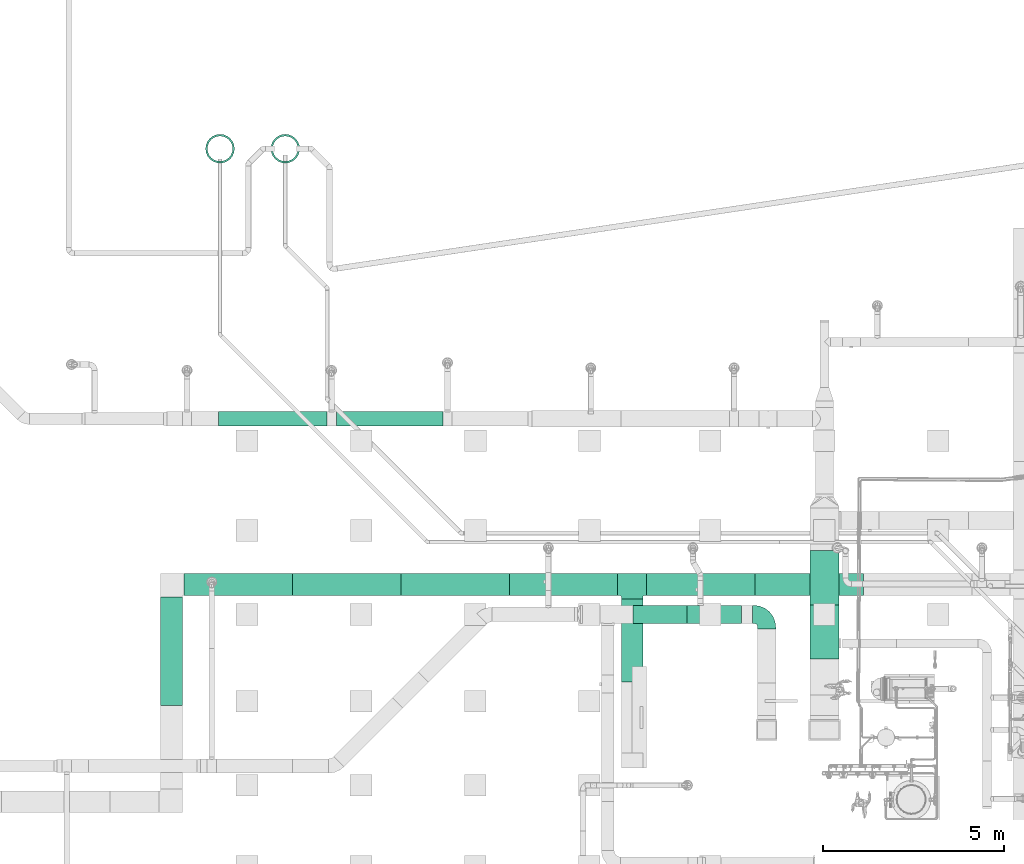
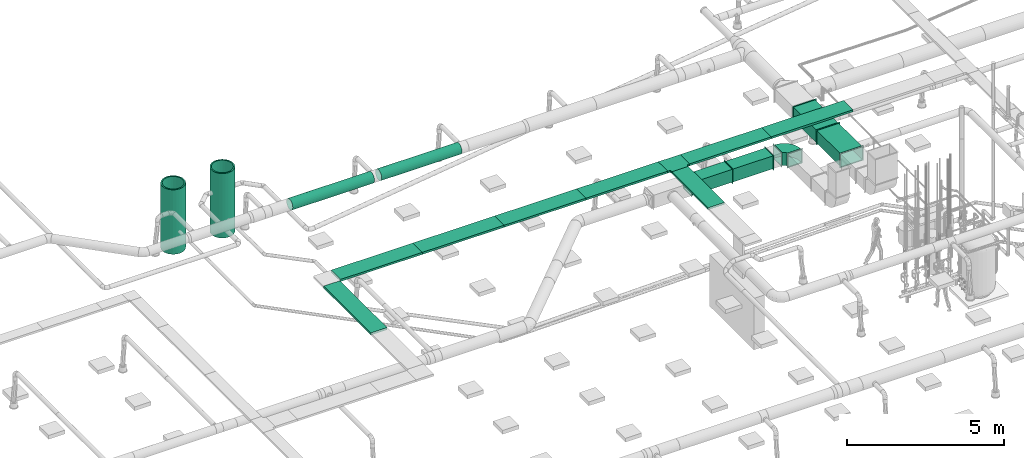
# One storey, part 13 of 374: 9 distribution elements, 6 flow segments, 3 flow fittings.
"""IFC2X3 building model written with IfcOpenShell, lengths in metres."""

from ifc_helpers import new_model, si_unit, direction, frame, frame_2d, origin, place, context, subcontext, project, spatial, rectangle, extrude, open_shell, surface_model, source, transform, mapped, element, save


model = new_model("IFC2X3")

# Units and contexts
model_context = context("Model", 3, precision=1e-05, world=origin(), true_north=direction((-0.4480736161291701, 0.8939966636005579)))
body_context = subcontext(model_context, "Body", "Model", "MODEL_VIEW")
ifc_project = project(units=[si_unit("LENGTHUNIT", "METRE"), si_unit("AREAUNIT", "SQUARE_METRE"), si_unit("VOLUMEUNIT", "CUBIC_METRE"), si_unit("PLANEANGLEUNIT", "RADIAN"), si_unit("THERMODYNAMICTEMPERATUREUNIT", "KELVIN"), si_unit("MASSUNIT", "GRAM", prefix="KILO"), si_unit("TIMEUNIT", "SECOND")], contexts=[model_context])

# Site, building, storey
site_placement = place(None, origin())
site = spatial("IfcSite", under=ifc_project, at=site_placement, Name="Site 1", CompositionType="ELEMENT")
building_placement = place(site_placement, origin())
building = spatial("IfcBuilding", under=site, at=building_placement, Name="Undefined", CompositionType="ELEMENT")
storey_placement = place(building_placement, origin())
storey = spatial("IfcBuildingStorey", under=building, at=storey_placement, Name="Rez de chauss\x8ee", CompositionType="ELEMENT", Elevation=0.0)

# Flow fitting
shared_shape_1 = source(origin(), body_context, "Body", "SurfaceModel", [
    surface_model("IfcFaceBasedSurfaceModel", [(0.0, 0.0, 0.0), (0.5800000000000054, 0.0, 0.0), (0.5400000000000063, 0.040000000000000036, 0.0), (0.04000000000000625, 0.040000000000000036, 0.0), (0.5800000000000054, 0.5800000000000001, 0.0), (0.5400000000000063, 0.54, 0.0), (0.0, 0.5800000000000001, 0.0), (0.04000000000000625, 0.54, 0.0), (0.6870000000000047, 0.0, -0.6870000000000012), (0.6870000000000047, 0.0, -0.10699999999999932), (0.6870000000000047, 0.040000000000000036, -0.14700000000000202), (0.6870000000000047, 0.040000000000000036, -0.647000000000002), (0.6870000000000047, 0.5800000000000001, -0.10699999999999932), (0.6870000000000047, 0.54, -0.14700000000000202), (0.6870000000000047, 0.5800000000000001, -0.6870000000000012), (0.6870000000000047, 0.54, -0.647000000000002), (0.04000000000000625, 0.54, -0.0470000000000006), (0.06044450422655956, 0.54, -0.20229142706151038), (0.06044450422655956, 0.040000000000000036, -0.20229142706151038), (0.04000000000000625, 0.040000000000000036, -0.0470000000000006), (0.12038475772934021, 0.54, -0.3470000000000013), (0.12038475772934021, 0.040000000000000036, -0.3470000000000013), (0.2157359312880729, 0.54, -0.4712640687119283), (0.2157359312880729, 0.040000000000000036, -0.4712640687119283), (0.3400000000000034, 0.54, -0.566615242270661), (0.3400000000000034, 0.040000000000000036, -0.566615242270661), (0.48470857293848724, 0.54, -0.6265554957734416), (0.48470857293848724, 0.040000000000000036, -0.6265554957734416), (0.6400000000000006, 0.54, -0.647000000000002), (0.6400000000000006, 0.040000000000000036, -0.647000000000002), (0.04000000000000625, 0.040000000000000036, 0.0030000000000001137), (0.04000000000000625, 0.54, 0.0030000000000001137), (0.5400000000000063, 0.040000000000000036, 0.0030000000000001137), (0.5400000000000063, 0.040000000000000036, -0.0470000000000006), (0.5400000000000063, 0.54, -0.0470000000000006), (0.5400000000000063, 0.54, 0.0030000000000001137), (0.6400000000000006, 0.54, -0.14700000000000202), (0.6141180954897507, 0.54, -0.14359258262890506), (0.6141180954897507, 0.040000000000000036, -0.14359258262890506), (0.6400000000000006, 0.040000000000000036, -0.14700000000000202), (0.5900000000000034, 0.54, -0.133602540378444), (0.5900000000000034, 0.040000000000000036, -0.133602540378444), (0.5692893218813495, 0.54, -0.11771067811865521), (0.5692893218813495, 0.040000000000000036, -0.11771067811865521), (0.5533974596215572, 0.54, -0.09700000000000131), (0.5533974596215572, 0.040000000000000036, -0.09700000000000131), (0.5434074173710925, 0.54, -0.072881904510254), (0.5434074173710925, 0.040000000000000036, -0.072881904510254), (0.6900000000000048, 0.040000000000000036, -0.14700000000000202), (0.6900000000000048, 0.54, -0.14700000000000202), (0.6900000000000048, 0.040000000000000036, -0.647000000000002), (0.6900000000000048, 0.54, -0.647000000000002)], [open_shell([[[0, 1, 2, 3]], [[1, 4, 5, 2]], [[6, 4, 5, 7]], [[0, 6, 7, 3]], [[8, 9, 10, 11]], [[9, 12, 13, 10]], [[14, 12, 13, 15]], [[8, 14, 15, 11]], [[16, 17, 18, 19]], [[17, 20, 21, 18]], [[20, 22, 23, 21]], [[22, 24, 25, 23]], [[24, 26, 27, 25]], [[26, 28, 29, 27]], [[19, 30, 31, 16]], [[32, 33, 34, 35]], [[36, 37, 38, 39]], [[37, 40, 41, 38]], [[40, 42, 43, 41]], [[42, 44, 45, 43]], [[44, 46, 47, 45]], [[46, 34, 33, 47]], [[39, 48, 49, 36]], [[50, 29, 28, 51]], [[17, 16, 46]], [[17, 46, 44]], [[17, 44, 42]], [[17, 42, 40]], [[17, 40, 37]], [[17, 37, 36]], [[17, 36, 51]], [[17, 51, 20]], [[34, 46, 16]], [[34, 16, 31]], [[34, 31, 35]], [[51, 28, 26]], [[51, 26, 24]], [[51, 24, 22]], [[51, 22, 20]], [[51, 36, 49]], [[47, 19, 18]], [[45, 47, 18]], [[43, 45, 18]], [[41, 43, 18]], [[38, 41, 18]], [[39, 38, 18]], [[50, 39, 18]], [[21, 50, 18]], [[19, 47, 33]], [[30, 19, 33]], [[32, 30, 33]], [[27, 29, 50]], [[25, 27, 50]], [[23, 25, 50]], [[21, 23, 50]], [[48, 39, 50]]])]),
])
flow_fitting_1_placement = place(storey_placement, origin())
element("IfcFlowFitting", 1, at=flow_fitting_1_placement, inside=storey, Name="Coude symétrique", ObjectType="Coude symétrique", context=body_context, shape_type="MappedRepresentation", body=[
    mapped(shared_shape_1, transform((49.93799663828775, 15.403573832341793, 3.5100000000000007), x_axis=(0.0, -1.0, 0.0), y_axis=(0.0, 0.0, 1.0), z_axis=(-1.0, 0.0, 0.0))),
])

# Flow segments
shared_shape_2 = source(origin(), body_context, "Body", "SurfaceModel", [
    surface_model("IfcFaceBasedSurfaceModel", [(0.0, 0.0, 0.0), (0.5800000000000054, 0.0, 0.0), (0.5400000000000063, 0.040000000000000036, 0.0), (0.04000000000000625, 0.040000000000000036, 0.0), (0.5800000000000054, 0.5800000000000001, 0.0), (0.5400000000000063, 0.54, 0.0), (0.0, 0.5800000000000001, 0.0), (0.04000000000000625, 0.54, 0.0), (0.0, 0.0, -1.4939999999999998), (0.5800000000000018, 0.0, -1.4939999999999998), (0.5399999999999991, 0.040000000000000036, -1.4939999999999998), (0.03999999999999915, 0.040000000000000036, -1.4939999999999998), (0.5800000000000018, 0.5800000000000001, -1.4939999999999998), (0.5399999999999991, 0.54, -1.4939999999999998), (0.0, 0.5800000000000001, -1.4939999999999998), (0.03999999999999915, 0.54, -1.4939999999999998), (0.04000000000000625, 0.54, 0.0030000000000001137), (0.03999999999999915, 0.54, -1.4969999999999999), (0.03999999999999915, 0.040000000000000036, -1.4969999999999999), (0.04000000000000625, 0.040000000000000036, 0.0030000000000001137), (0.5399999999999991, 0.040000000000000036, -1.4969999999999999), (0.5400000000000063, 0.040000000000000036, 0.0030000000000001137), (0.5399999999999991, 0.54, -1.4969999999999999), (0.5400000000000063, 0.54, 0.0030000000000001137)], [open_shell([[[0, 1, 2, 3]], [[1, 4, 5, 2]], [[6, 4, 5, 7]], [[0, 6, 7, 3]], [[8, 9, 10, 11]], [[9, 12, 13, 10]], [[14, 12, 13, 15]], [[8, 14, 15, 11]], [[16, 17, 18, 19]], [[19, 18, 20, 21]], [[21, 20, 22, 23]], [[23, 22, 17, 16]]])]),
])
flow_segment_1_placement = place(storey_placement, origin())
element("IfcFlowSegment", 2, at=flow_segment_1_placement, inside=storey, Name="Gaine de ventilation", ObjectType="Gaine de ventilation", context=body_context, shape_type="MappedRepresentation", body=[
    mapped(shared_shape_2, transform((49.62989142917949, 15.403573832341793, 4.090000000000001), x_axis=(0.0, -1.0, 0.0), y_axis=(0.0, 0.0, -1.0), z_axis=(1.0, 0.0, 0.0))),
])
flow_segment_2_placement = place(storey_placement, origin())
element("IfcFlowSegment", 3, at=flow_segment_2_placement, inside=storey, Name="Gaine de ventilation", ObjectType="Gaine de ventilation", context=body_context, shape_type="MappedRepresentation", body=[
    mapped(shared_shape_2, transform((48.12989142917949, 15.403573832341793, 4.090000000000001), x_axis=(0.0, -1.0, 0.0), y_axis=(0.0, 0.0, -1.0), z_axis=(1.0, 0.0, 0.0))),
])
shared_shape_3 = source(origin(), body_context, "Body", "SurfaceModel", [
    surface_model("IfcFaceBasedSurfaceModel", [(0.0, 0.05221047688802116, -8.8817842e-16), (0.0, 0.0, 0.0), (3.0, 0.0, 0.0), (3.0, 0.05221047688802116, -8.8817842e-16), (0.0, -0.05043144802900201, -0.013513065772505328), (3.0, -0.05043144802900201, -0.013513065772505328), (0.0, -0.09564704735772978, -0.0396183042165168), (3.0, -0.09564704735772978, -0.0396183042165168), (0.0, -0.1325654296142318, -0.07653668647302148), (3.0, -0.1325654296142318, -0.07653668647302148), (0.0, -0.15867066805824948, -0.12175228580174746), (3.0, -0.15867066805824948, -0.12175228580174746), (0.0, -0.17218373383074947, -0.17218373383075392), (3.0, -0.17218373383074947, -0.17218373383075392), (0.0, -0.17218373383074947, -0.22439421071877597), (3.0, -0.17218373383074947, -0.22439421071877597), (0.0, -0.15867066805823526, -0.2748256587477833), (3.0, -0.15867066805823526, -0.2748256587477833), (0.0, -0.1325654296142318, -0.3200412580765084), (3.0, -0.1325654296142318, -0.3200412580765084), (0.0, -0.09564704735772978, -0.35695964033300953), (3.0, -0.09564704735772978, -0.35695964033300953), (0.0, -0.050431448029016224, -0.3830648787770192), (3.0, -0.050431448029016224, -0.3830648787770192), (0.0, 0.0, -0.39657794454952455), (3.0, 0.0, -0.39657794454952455), (0.0, 0.05221047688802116, -0.3965779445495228), (3.0, 0.05221047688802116, -0.3965779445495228), (0.0, 0.10264192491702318, -0.38306487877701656), (3.0, 0.10264192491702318, -0.38306487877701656), (0.0, 0.14785752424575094, -0.356959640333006), (3.0, 0.14785752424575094, -0.356959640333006), (0.0, 0.18477590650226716, -0.32004125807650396), (3.0, 0.18477590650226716, -0.32004125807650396), (0.0, 0.21088114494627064, -0.2748256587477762), (3.0, 0.21088114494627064, -0.2748256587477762), (0.0, 0.22439421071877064, -0.22439421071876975), (3.0, 0.22439421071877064, -0.22439421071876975), (0.0, 0.22439421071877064, -0.1721837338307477), (3.0, 0.22439421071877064, -0.1721837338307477), (0.0, 0.21088114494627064, -0.12175228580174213), (3.0, 0.21088114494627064, -0.12175228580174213), (0.0, 0.18477590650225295, -0.07653668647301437), (3.0, 0.18477590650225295, -0.07653668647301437), (0.0, 0.14785752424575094, -0.03961830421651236), (3.0, 0.14785752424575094, -0.03961830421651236), (0.0, 0.10264192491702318, -0.013513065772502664), (3.0, 0.10264192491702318, -0.013513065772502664)], [open_shell([[[0, 1, 2, 3]], [[1, 4, 5, 2]], [[4, 6, 7, 5]], [[6, 8, 9, 7]], [[8, 10, 11, 9]], [[10, 12, 13, 11]], [[12, 14, 15, 13]], [[14, 16, 17, 15]], [[16, 18, 19, 17]], [[18, 20, 21, 19]], [[20, 22, 23, 21]], [[22, 24, 25, 23]], [[24, 26, 27, 25]], [[26, 28, 29, 27]], [[28, 30, 31, 29]], [[30, 32, 33, 31]], [[32, 34, 35, 33]], [[34, 36, 37, 35]], [[36, 38, 39, 37]], [[38, 40, 41, 39]], [[40, 42, 43, 41]], [[42, 44, 45, 43]], [[44, 46, 47, 45]], [[46, 0, 3, 47]]])]),
])
flow_segment_3_placement = place(storey_placement, origin())
element("IfcFlowSegment", 4, at=flow_segment_3_placement, inside=storey, Name="Tube", ObjectType="Tube", context=body_context, shape_type="MappedRepresentation", body=[
    mapped(shared_shape_3, transform((38.163289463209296, 20.57865198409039, 3.9931851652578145), x_axis=(-1.0, 0.0, 0.0), y_axis=(7.266545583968e-12, -0.9914448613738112, 0.13052619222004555), z_axis=(0.0, 0.13052619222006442, 0.9914448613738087))),
])

# Distribution element
shared_shape_4 = source(origin(), body_context, "Body", "SurfaceModel", [
    surface_model("IfcFaceBasedSurfaceModel", [(0.0, 0.049999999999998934, 0.0), (0.0, 0.0, 0.0), (0.08000000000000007, 0.0, 5.82867088e-16), (0.08000000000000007, 0.04999999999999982, 0.0), (0.08000000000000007, -0.04999999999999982, 0.04999999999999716), (0.08000000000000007, -0.04829629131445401, 0.03705904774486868), (0.0, -0.04829629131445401, 0.03705904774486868), (0.0, -0.04999999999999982, 0.04999999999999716), (0.08000000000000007, -0.0433012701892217, 0.02499999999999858), (0.0, -0.0433012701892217, 0.02499999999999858), (0.08000000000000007, -0.035355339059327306, 0.014644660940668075), (0.0, -0.035355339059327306, 0.014644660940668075), (0.08000000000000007, -0.025000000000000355, 0.006698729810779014), (0.0, -0.025000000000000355, 0.006698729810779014), (0.08000000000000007, -0.012940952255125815, 0.001703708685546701), (0.0, -0.012940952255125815, 0.001703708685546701), (0.0, -0.04999999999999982, 0.10000000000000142), (0.08000000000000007, -0.04999999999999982, 0.10000000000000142), (0.0, -0.6500000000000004, 0.10000000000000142), (0.0, -0.6500000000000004, 0.04999999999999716), (0.08000000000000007, -0.6500000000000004, 0.04999999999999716), (0.08000000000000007, -0.6500000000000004, 0.10000000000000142), (0.08000000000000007, -0.7000000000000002, 0.0), (0.08000000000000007, -0.6870590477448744, 0.001703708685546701), (0.0, -0.6870590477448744, 0.001703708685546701), (0.0, -0.7000000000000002, 0.0), (0.08000000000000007, -0.6749999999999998, 0.006698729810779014), (0.0, -0.6749999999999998, 0.006698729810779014), (0.08000000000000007, -0.664644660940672, 0.014644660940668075), (0.0, -0.664644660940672, 0.014644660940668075), (0.08000000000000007, -0.6566987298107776, 0.02499999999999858), (0.0, -0.6566987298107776, 0.02499999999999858), (0.08000000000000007, -0.6517037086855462, 0.03705904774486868), (0.0, -0.6517037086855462, 0.03705904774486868), (0.0, -0.75, 0.0), (0.08000000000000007, -0.75, 0.0), (0.0, -0.75, -0.6000000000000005), (0.0, 0.05000000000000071, -0.6000000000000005), (0.08000000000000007, 0.05000000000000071, -0.6000000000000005), (0.08000000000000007, -0.75, -0.6000000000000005)], [open_shell([[[0, 1, 2, 3]], [[4, 5, 6, 7]], [[5, 8, 9, 6]], [[8, 10, 11, 9]], [[10, 12, 13, 11]], [[12, 14, 15, 13]], [[14, 2, 1, 15]], [[7, 16, 17, 4]], [[18, 19, 20, 21]], [[22, 23, 24, 25]], [[23, 26, 27, 24]], [[26, 28, 29, 27]], [[28, 30, 31, 29]], [[30, 32, 33, 31]], [[32, 20, 19, 33]], [[25, 34, 35, 22]], [[36, 37, 38, 39]], [[39, 38, 2]], [[39, 2, 14]], [[39, 14, 12]], [[39, 12, 10]], [[39, 10, 8]], [[39, 8, 5]], [[39, 5, 4]], [[39, 4, 32]], [[39, 32, 30]], [[39, 30, 28]], [[39, 28, 26]], [[39, 26, 23]], [[39, 23, 22]], [[39, 22, 35]], [[4, 17, 21]], [[4, 21, 20]], [[4, 20, 32]], [[2, 38, 3]], [[1, 37, 36]], [[15, 1, 36]], [[13, 15, 36]], [[11, 13, 36]], [[9, 11, 36]], [[6, 9, 36]], [[7, 6, 36]], [[33, 7, 36]], [[31, 33, 36]], [[29, 31, 36]], [[27, 29, 36]], [[24, 27, 36]], [[25, 24, 36]], [[34, 25, 36]], [[18, 16, 7]], [[19, 18, 7]], [[33, 19, 7]], [[0, 37, 1]]])]),
])
distribution_element_1_placement = place(storey_placement, origin())
element("IfcDistributionElement", 5, at=distribution_element_1_placement, inside=storey, Name="Pièce en té", ObjectType="Pièce en té", context=body_context, shape_type="MappedRepresentation", body=[
    mapped(shared_shape_4, transform((46.961, 15.643637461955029, 4.18), x_axis=(0.0, 0.0, -1.0), y_axis=(1.0, 0.0, 0.0), z_axis=(0.0, -1.0, 0.0))),
])

# Flow segments
shared_shape_5 = source(origin(), body_context, "Body", "SurfaceModel", [
    surface_model("IfcFaceBasedSurfaceModel", [(0.0, 0.0, 0.0), (0.8800000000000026, 0.0, 0.0), (0.8400000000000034, 0.040000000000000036, -7.105427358e-15), (0.04000000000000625, 0.040000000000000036, 0.0), (0.8800000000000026, 0.5800000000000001, -2.842170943e-14), (0.8400000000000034, 0.54, -2.842170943e-14), (0.0, 0.5800000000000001, 0.0), (0.04000000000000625, 0.54, 0.0), (0.0, 0.0, -1.4939999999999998), (0.8799999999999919, -6.039613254e-14, -1.4939999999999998), (0.8399999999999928, 0.03999999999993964, -1.4940000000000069), (0.03999999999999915, 0.040000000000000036, -1.4939999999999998), (0.8799999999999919, 0.5799999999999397, -1.494000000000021), (0.8399999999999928, 0.5399999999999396, -1.4940000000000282), (0.0, 0.5800000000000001, -1.4939999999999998), (0.03999999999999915, 0.54, -1.4939999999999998), (0.04000000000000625, 0.54, 0.0030000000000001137), (0.03999999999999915, 0.54, -1.4969999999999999), (0.03999999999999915, 0.040000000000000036, -1.4969999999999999), (0.04000000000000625, 0.040000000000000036, 0.0030000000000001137), (0.8399999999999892, 0.03999999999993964, -1.497000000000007), (0.8400000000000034, 0.040000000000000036, 0.0029999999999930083), (0.8399999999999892, 0.5399999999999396, -1.4970000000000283), (0.8400000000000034, 0.54, 0.002999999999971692)], [open_shell([[[0, 1, 2, 3]], [[1, 4, 5, 2]], [[6, 4, 5, 7]], [[0, 6, 7, 3]], [[8, 9, 10, 11]], [[9, 12, 13, 10]], [[14, 12, 13, 15]], [[8, 14, 15, 11]], [[16, 17, 18, 19]], [[19, 18, 20, 21]], [[21, 20, 22, 23]], [[23, 22, 17, 16]]])]),
])
flow_segment_4_placement = place(storey_placement, origin())
element("IfcFlowSegment", 6, at=flow_segment_4_placement, inside=storey, Name="Gaine de ventilation", ObjectType="Gaine de ventilation", context=body_context, shape_type="MappedRepresentation", body=[
    mapped(shared_shape_5, transform((52.37499507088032, 13.882596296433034, 4.090000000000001), x_axis=(-1.0, 0.0, 0.0), y_axis=(0.0, 0.0, -1.0), z_axis=(0.0, -1.0, 0.0))),
])
flow_segment_5_placement = place(storey_placement, origin())
element("IfcFlowSegment", 7, at=flow_segment_5_placement, inside=storey, Name="Gaine de ventilation", ObjectType="Gaine de ventilation", context=body_context, shape_type="MappedRepresentation", body=[
    mapped(shared_shape_5, transform((52.374995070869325, 15.382596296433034, 4.090000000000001), x_axis=(-1.0, 0.0, 0.0), y_axis=(0.0, 0.0, -1.0), z_axis=(0.0, -1.0, 0.0))),
])
shared_shape_6 = source(origin(), body_context, "Body", "SurfaceModel", [
    surface_model("IfcFaceBasedSurfaceModel", [(0.0, 0.05221047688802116, -8.8817842e-16), (0.0, 0.0, 0.0), (2.9478949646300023, 0.0, 0.0), (2.9478949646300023, 0.05221047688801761, 0.0), (0.0, -0.05043144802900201, -0.013513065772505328), (2.9478949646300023, -0.050431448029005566, -0.01351306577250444), (0.0, -0.09564704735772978, -0.0396183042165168), (2.9478949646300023, -0.09564704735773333, -0.03961830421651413), (0.0, -0.1325654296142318, -0.07653668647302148), (2.9478949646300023, -0.1325654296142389, -0.07653668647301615), (0.0, -0.15867066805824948, -0.12175228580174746), (2.9478949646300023, -0.15867066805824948, -0.12175228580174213), (0.0, -0.17218373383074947, -0.17218373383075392), (2.9478949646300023, -0.17218373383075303, -0.17218373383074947), (0.0, -0.17218373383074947, -0.22439421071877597), (2.9478949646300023, -0.17218373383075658, -0.22439421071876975), (0.0, -0.15867066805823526, -0.2748256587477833), (2.9478949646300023, -0.15867066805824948, -0.274825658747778), (0.0, -0.1325654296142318, -0.3200412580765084), (2.9478949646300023, -0.1325654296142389, -0.32004125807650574), (0.0, -0.09564704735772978, -0.35695964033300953), (2.9478949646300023, -0.09564704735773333, -0.35695964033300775), (0.0, -0.050431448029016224, -0.3830648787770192), (2.9478949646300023, -0.05043144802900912, -0.38306487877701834), (0.0, 0.0, -0.39657794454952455), (2.9478949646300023, -7.105427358e-15, -0.39657794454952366), (0.0, 0.05221047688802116, -0.3965779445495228), (2.9478949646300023, 0.05221047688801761, -0.39657794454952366), (0.0, 0.10264192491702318, -0.38306487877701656), (2.9478949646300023, 0.10264192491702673, -0.3830648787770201), (0.0, 0.14785752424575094, -0.356959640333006), (2.9478949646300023, 0.14785752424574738, -0.3569596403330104), (0.0, 0.18477590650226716, -0.32004125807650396), (2.9478949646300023, 0.1847759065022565, -0.3200412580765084), (0.0, 0.21088114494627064, -0.2748256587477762), (2.9478949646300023, 0.21088114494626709, -0.2748256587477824), (0.0, 0.22439421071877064, -0.22439421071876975), (2.9478949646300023, 0.22439421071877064, -0.2243942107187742), (0.0, 0.22439421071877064, -0.1721837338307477), (2.9478949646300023, 0.2243942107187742, -0.1721837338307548), (0.0, 0.21088114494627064, -0.12175228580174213), (2.9478949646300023, 0.21088114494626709, -0.12175228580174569), (0.0, 0.18477590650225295, -0.07653668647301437), (2.9478949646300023, 0.18477590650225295, -0.0765366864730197), (0.0, 0.14785752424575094, -0.03961830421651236), (2.9478949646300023, 0.1478575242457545, -0.0396183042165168), (0.0, 0.10264192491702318, -0.013513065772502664), (2.9478949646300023, 0.10264192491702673, -0.013513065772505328)], [open_shell([[[0, 1, 2, 3]], [[1, 4, 5, 2]], [[4, 6, 7, 5]], [[6, 8, 9, 7]], [[8, 10, 11, 9]], [[10, 12, 13, 11]], [[12, 14, 15, 13]], [[14, 16, 17, 15]], [[16, 18, 19, 17]], [[18, 20, 21, 19]], [[20, 22, 23, 21]], [[22, 24, 25, 23]], [[24, 26, 27, 25]], [[26, 28, 29, 27]], [[28, 30, 31, 29]], [[30, 32, 33, 31]], [[32, 34, 35, 33]], [[34, 36, 37, 35]], [[36, 38, 39, 37]], [[38, 40, 41, 39]], [[40, 42, 43, 41]], [[42, 44, 45, 43]], [[44, 46, 47, 45]], [[46, 0, 3, 47]]])]),
])
flow_segment_6_placement = place(storey_placement, origin())
element("IfcFlowSegment", 8, at=flow_segment_6_placement, inside=storey, Name="Tube", ObjectType="Tube", context=body_context, shape_type="MappedRepresentation", body=[
    mapped(shared_shape_6, transform((41.371184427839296, 20.57865198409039, 3.9931851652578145), x_axis=(-1.0, 0.0, 0.0), y_axis=(7.266545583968e-12, -0.9914448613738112, 0.13052619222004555), z_axis=(0.0, 0.13052619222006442, 0.9914448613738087))),
])

# Flow fittings
shared_shape_7 = source(origin(), body_context, "Body", "SurfaceModel", [
    surface_model("IfcFaceBasedSurfaceModel", [(0.0, 0.10442095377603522, 0.0), (0.0, 0.0, 0.0), (2.5, 0.0, 3.552713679e-15), (2.5, 0.10442095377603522, 0.0), (0.0, -0.10086289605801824, -0.027026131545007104), (2.5, -0.10086289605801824, -0.027026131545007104), (0.0, -0.19129409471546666, -0.07923660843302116), (2.5, -0.19129409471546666, -0.07923660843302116), (0.0, -0.2651308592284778, -0.1530733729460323), (2.5, -0.2651308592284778, -0.1530733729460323), (0.0, -0.3173413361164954, -0.2435045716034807), (2.5, -0.3173413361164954, -0.2435045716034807), (0.0, -0.3443674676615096, -0.34436746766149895), (2.5, -0.3443674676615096, -0.34436746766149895), (0.0, -0.34436746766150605, -0.4487884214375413), (2.5, -0.34436746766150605, -0.4487884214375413), (0.0, -0.3173413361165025, -0.5496513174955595), (2.5, -0.3173413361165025, -0.5496513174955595), (0.0, -0.2651308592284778, -0.640082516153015), (2.5, -0.2651308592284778, -0.640082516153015), (0.0, -0.19129409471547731, -0.7139192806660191), (2.5, -0.19129409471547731, -0.7139192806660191), (0.0, -0.10086289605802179, -0.7661297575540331), (2.5, -0.10086289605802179, -0.7661297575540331), (0.0, -1.4210854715e-14, -0.7931558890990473), (2.5, -1.4210854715e-14, -0.7931558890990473), (-7.105427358e-15, 0.10442095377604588, -0.7931558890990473), (2.5, 0.10442095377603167, -0.7931558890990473), (0.0, 0.2052838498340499, -0.7661297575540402), (2.5, 0.2052838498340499, -0.7661297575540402), (0.0, 0.29571504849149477, -0.7139192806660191), (2.5, 0.29571504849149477, -0.7139192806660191), (0.0, 0.36955181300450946, -0.640082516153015), (2.5, 0.36955181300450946, -0.640082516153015), (0.0, 0.42176228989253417, -0.5496513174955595), (2.5, 0.42176228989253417, -0.5496513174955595), (0.0, 0.4487884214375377, -0.4487884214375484), (2.5, 0.4487884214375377, -0.4487884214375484), (0.0, 0.4487884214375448, -0.34436746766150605), (2.5, 0.4487884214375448, -0.34436746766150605), (0.0, 0.42176228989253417, -0.24350457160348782), (2.5, 0.42176228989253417, -0.24350457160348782), (0.0, 0.3695518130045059, -0.1530733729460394), (2.5, 0.3695518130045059, -0.1530733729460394), (0.0, 0.295715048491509, -0.07923660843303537), (2.5, 0.295715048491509, -0.07923660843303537), (0.0, 0.20528384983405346, -0.027026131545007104), (2.5, 0.20528384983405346, -0.027026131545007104), (0.0, 0.09789464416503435, -0.04957224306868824), (0.0, 0.006526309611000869, -0.04957224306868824), (2.5, 0.006526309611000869, -0.04957224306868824), (2.5, 0.09789464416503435, -0.04957224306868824), (0.0, -0.08172872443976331, -0.0732201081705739), (2.5, -0.08172872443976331, -0.0732201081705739), (0.0, -0.16085602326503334, -0.11890427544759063), (2.5, -0.16085602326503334, -0.11890427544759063), (0.0, -0.22546319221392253, -0.1835114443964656), (2.5, -0.22546319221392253, -0.1835114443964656), (0.0, -0.27114735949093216, -0.26263874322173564), (2.5, -0.27114735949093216, -0.26263874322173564), (0.0, -0.29479522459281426, -0.35089377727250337), (2.5, -0.29479522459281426, -0.35089377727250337), (0.0, -0.2947952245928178, -0.44226211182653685), (2.5, -0.2947952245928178, -0.44226211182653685), (0.0, -0.2711473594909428, -0.5305171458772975), (2.5, -0.2711473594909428, -0.5305171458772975), (0.0, -0.22546319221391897, -0.6096444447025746), (2.5, -0.22546319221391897, -0.6096444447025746), (0.0, -0.16085602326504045, -0.6742516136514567), (2.5, -0.16085602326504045, -0.6742516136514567), (0.0, -0.08172872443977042, -0.7199357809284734), (2.5, -0.08172872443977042, -0.7199357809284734), (0.0, 0.006526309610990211, -0.743583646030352), (2.5, 0.006526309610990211, -0.743583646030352), (0.0, 0.0978946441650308, -0.7435836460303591), (2.5, 0.0978946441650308, -0.7435836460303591), (0.0, 0.18614967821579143, -0.7199357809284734), (2.5, 0.18614967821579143, -0.7199357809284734), (0.0, 0.265276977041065, -0.6742516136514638), (2.5, 0.265276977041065, -0.6742516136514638), (0.0, 0.3298841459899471, -0.6096444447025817), (2.5, 0.3298841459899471, -0.6096444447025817), (0.0, 0.3755683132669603, -0.5305171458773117), (2.5, 0.3755683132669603, -0.5305171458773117), (0.0, 0.3992161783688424, -0.44226211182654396), (2.5, 0.3992161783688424, -0.44226211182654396), (0.0, 0.39921617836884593, -0.3508937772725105), (2.5, 0.39921617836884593, -0.3508937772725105), (0.0, 0.3755683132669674, -0.26263874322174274), (2.5, 0.3755683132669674, -0.26263874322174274), (0.0, 0.32988414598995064, -0.1835114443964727), (2.5, 0.32988414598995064, -0.1835114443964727), (0.0, 0.26527697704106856, -0.11890427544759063), (2.5, 0.26527697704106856, -0.11890427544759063), (0.0, 0.18614967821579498, -0.0732201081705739), (2.5, 0.18614967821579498, -0.0732201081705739)], [open_shell([[[0, 1, 2, 3]], [[1, 4, 5, 2]], [[4, 6, 7, 5]], [[6, 8, 9, 7]], [[8, 10, 11, 9]], [[10, 12, 13, 11]], [[12, 14, 15, 13]], [[14, 16, 17, 15]], [[16, 18, 19, 17]], [[18, 20, 21, 19]], [[20, 22, 23, 21]], [[22, 24, 25, 23]], [[24, 26, 27, 25]], [[26, 28, 29, 27]], [[28, 30, 31, 29]], [[30, 32, 33, 31]], [[32, 34, 35, 33]], [[34, 36, 37, 35]], [[36, 38, 39, 37]], [[38, 40, 41, 39]], [[40, 42, 43, 41]], [[42, 44, 45, 43]], [[44, 46, 47, 45]], [[46, 0, 3, 47]], [[48, 49, 50, 51]], [[49, 52, 53, 50]], [[52, 54, 55, 53]], [[54, 56, 57, 55]], [[56, 58, 59, 57]], [[58, 60, 61, 59]], [[60, 62, 63, 61]], [[62, 64, 65, 63]], [[64, 66, 67, 65]], [[66, 68, 69, 67]], [[68, 70, 71, 69]], [[70, 72, 73, 71]], [[72, 74, 75, 73]], [[74, 76, 77, 75]], [[76, 78, 79, 77]], [[78, 80, 81, 79]], [[80, 82, 83, 81]], [[82, 84, 85, 83]], [[84, 86, 87, 85]], [[86, 88, 89, 87]], [[88, 90, 91, 89]], [[90, 92, 93, 91]], [[92, 94, 95, 93]], [[94, 48, 51, 95]], [[36, 84, 86, 38]], [[38, 86, 88, 40]], [[40, 88, 90, 42]], [[42, 90, 92, 44]], [[44, 92, 94, 46]], [[46, 94, 48, 0]], [[0, 48, 49, 1]], [[1, 49, 52, 4]], [[4, 52, 54, 6]], [[6, 54, 56, 8]], [[8, 56, 58, 10]], [[10, 58, 60, 12]], [[12, 60, 62, 14]], [[14, 62, 64, 16]], [[16, 64, 66, 18]], [[18, 66, 68, 20]], [[20, 68, 70, 22]], [[22, 70, 72, 24]], [[24, 72, 74, 26]], [[26, 74, 76, 28]], [[28, 76, 78, 30]], [[30, 78, 80, 32]], [[32, 80, 82, 34]], [[34, 82, 84, 36]]])]),
])
flow_fitting_2_placement = place(storey_placement, origin())
element("IfcFlowFitting", 9, at=flow_fitting_2_placement, inside=storey, Name="Puits collectif", ObjectType="Puits collectif", context=body_context, shape_type="MappedRepresentation", body=[
    mapped(shared_shape_7, transform((35.10264791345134, 27.615068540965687, 0.09), x_axis=(0.0, 0.0, -1.0), y_axis=(0.9914448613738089, -0.13052619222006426, 0.0), z_axis=(-0.13052619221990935, -0.9914448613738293, 0.0))),
])
flow_fitting_3_placement = place(storey_placement, origin())
element("IfcFlowFitting", 10, at=flow_fitting_3_placement, inside=storey, Name="Puits collectif", ObjectType="Puits collectif", context=body_context, shape_type="MappedRepresentation", body=[
    mapped(shared_shape_7, transform((36.907965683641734, 27.615068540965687, 0.09), x_axis=(0.0, 0.0, -1.0), y_axis=(0.9914448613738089, -0.13052619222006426, 0.0), z_axis=(-0.13052619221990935, -0.9914448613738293, 0.0))),
])

# Distribution elements
distribution_element_2_placement = place(storey_placement, origin())
element("IfcDistributionElement", 11, at=distribution_element_2_placement, inside=storey, Name="Chemin(s) de câbles", ObjectType="Chemin(s) de câbles", context=body_context, shape_type="SweptSolid", body=[
    extrude(rectangle(XDim=0.6, YDim=0.08, at=frame_2d((3.552713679e-15, 0.0), x_axis=(-1.0, 0.0))), frame((47.011, 15.943637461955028, 4.14), z_axis=(1.0, 0.0, 0.0), x_axis=(0.0, 1.0, 0.0)), (0.0, 0.0, 1.0), 3.0),
])
distribution_element_3_placement = place(storey_placement, origin())
element("IfcDistributionElement", 12, at=distribution_element_3_placement, inside=storey, Name="Chemin(s) de câbles", ObjectType="Chemin(s) de câbles", context=body_context, shape_type="SweptSolid", body=[
    extrude(rectangle(XDim=0.6, YDim=0.08, at=frame_2d((3.552713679e-15, 0.0), x_axis=(-1.0, 0.0))), frame((50.011, 15.943637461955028, 4.14), z_axis=(1.0, 0.0, 0.0), x_axis=(0.0, 1.0, 0.0)), (0.0, 0.0, 1.0), 3.0),
])
distribution_element_4_placement = place(storey_placement, origin())
element("IfcDistributionElement", 13, at=distribution_element_4_placement, inside=storey, Name="Chemin(s) de câbles", ObjectType="Chemin(s) de câbles", context=body_context, shape_type="SweptSolid", body=[
    extrude(rectangle(XDim=0.6, YDim=0.08, at=frame_2d((3.552713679e-15, 0.0), x_axis=(-1.0, 0.0))), frame((46.211, 15.943637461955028, 4.14), z_axis=(-1.0, 0.0, 0.0), x_axis=(0.0, -1.0, 0.0)), (0.0, 0.0, 1.0), 3.0),
])
distribution_element_5_placement = place(storey_placement, origin())
element("IfcDistributionElement", 14, at=distribution_element_5_placement, inside=storey, Name="Chemin(s) de câbles", ObjectType="Chemin(s) de câbles", context=body_context, shape_type="SweptSolid", body=[
    extrude(rectangle(XDim=0.6, YDim=0.08, at=frame_2d((3.552713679e-15, 0.0), x_axis=(-1.0, 0.0))), frame((43.211, 15.943637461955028, 4.14), z_axis=(-1.0, 0.0, 0.0), x_axis=(0.0, -1.0, 0.0)), (0.0, 0.0, 1.0), 3.0),
])
distribution_element_6_placement = place(storey_placement, origin())
element("IfcDistributionElement", 15, at=distribution_element_6_placement, inside=storey, Name="Chemin(s) de câbles", ObjectType="Chemin(s) de câbles", context=body_context, shape_type="SweptSolid", body=[
    extrude(rectangle(XDim=0.6, YDim=0.08, at=frame_2d((3.552713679e-15, 0.0), x_axis=(-1.0, 0.0))), frame((40.211, 15.943637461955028, 4.14), z_axis=(-1.0, 0.0, 0.0), x_axis=(0.0, -1.0, 0.0)), (0.0, 0.0, 1.0), 3.0),
])
distribution_element_7_placement = place(storey_placement, origin())
element("IfcDistributionElement", 16, at=distribution_element_7_placement, inside=storey, Name="Chemin(s) de câbles", ObjectType="Chemin(s) de câbles", context=body_context, shape_type="SweptSolid", body=[
    extrude(rectangle(XDim=0.6, YDim=0.08, at=frame_2d((3.552713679e-15, 0.0), x_axis=(-1.0, 0.0))), frame((37.211, 15.943637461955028, 4.14), z_axis=(-1.0, 0.0, 0.0), x_axis=(0.0, -1.0, 0.0)), (0.0, 0.0, 1.0), 3.0),
])
distribution_element_8_placement = place(storey_placement, origin())
element("IfcDistributionElement", 17, at=distribution_element_8_placement, inside=storey, Name="Chemin(s) de câbles", ObjectType="Chemin(s) de câbles", context=body_context, shape_type="SweptSolid", body=[
    extrude(rectangle(XDim=0.6, YDim=0.08, at=frame_2d((3.552713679e-15, 0.0), x_axis=(-1.0, 0.0))), frame((46.611000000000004, 13.241730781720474, 4.14), z_axis=(0.0, 1.0, 0.0), x_axis=(-1.0, 0.0, 0.0)), (0.0, 0.0, 1.0), 2.301906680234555),
])
distribution_element_9_placement = place(storey_placement, origin())
element("IfcDistributionElement", 18, at=distribution_element_9_placement, inside=storey, Name="Chemin(s) de câbles", ObjectType="Chemin(s) de câbles", context=body_context, shape_type="SweptSolid", body=[
    extrude(rectangle(XDim=0.6, YDim=0.08, at=frame_2d((3.552713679e-15, 0.0), x_axis=(-1.0, 0.0))), frame((33.861000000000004, 15.593637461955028, 4.14), z_axis=(0.0, -1.0, 0.0), x_axis=(1.0, 0.0, 0.0)), (0.0, 0.0, 1.0), 3.0),
])

save(model, "model.ifc")
